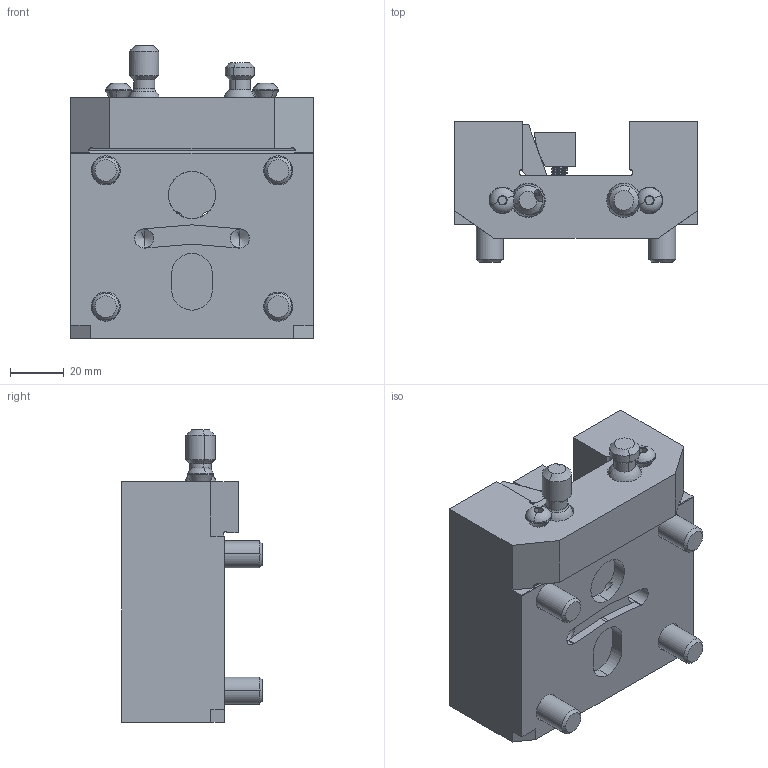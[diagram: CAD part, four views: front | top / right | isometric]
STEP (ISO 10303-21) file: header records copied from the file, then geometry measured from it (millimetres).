
FILE_DESCRIPTION (( 'STEP AP203' ), '1' );
FILE_NAME ('04-0796.STEP', '2022-07-12T16:23:15', ( '' ), ( '' ), 'SwSTEP 2.0', 'SolidWorks 2021', '' );
FILE_SCHEMA (( 'CONFIG_CONTROL_DESIGN' ));
Length unit declared in the file: inch
Products named in the file (14): 22-8749; 04-0796; 40-1640; 40-0003_40-0003; 57-0026; 20-10447; 20-3796; 10000016468; 40-0120; 10000011374; 20-3797; 40-1626_40-1626; 20-2077; 10000015933
Assembly tree (20 placements, depth 3):
  04-0796
    10000011374
      20-10447
      22-8749  x2
      57-0026  x2
      10000016468
      40-1626_40-1626  x2
      40-1640
      40-0120  x4
      40-0003_40-0003  x2
      10000015933
      20-3796
      20-3797
      20-2077
Bounding box: 90 x 52.06 x 108.69 mm (x, y, z)
Volume: 244961.3 mm3; surface area: 67262.7 mm2
Topology: 19 solids, 20 shells, 718 faces, 1853 edges, 1179 vertices
Faces by surface type: cylinder 399, plane 159, cone 122, torus 24, bspline 10, sphere 4
Entity records: 19382 total; most frequent: CARTESIAN_POINT 6996, ORIENTED_EDGE 2352, DIRECTION 2162, EDGE_CURVE 1176, AXIS2_PLACEMENT_3D 834, VERTEX_POINT 756, EDGE_LOOP 524, VECTOR 494
